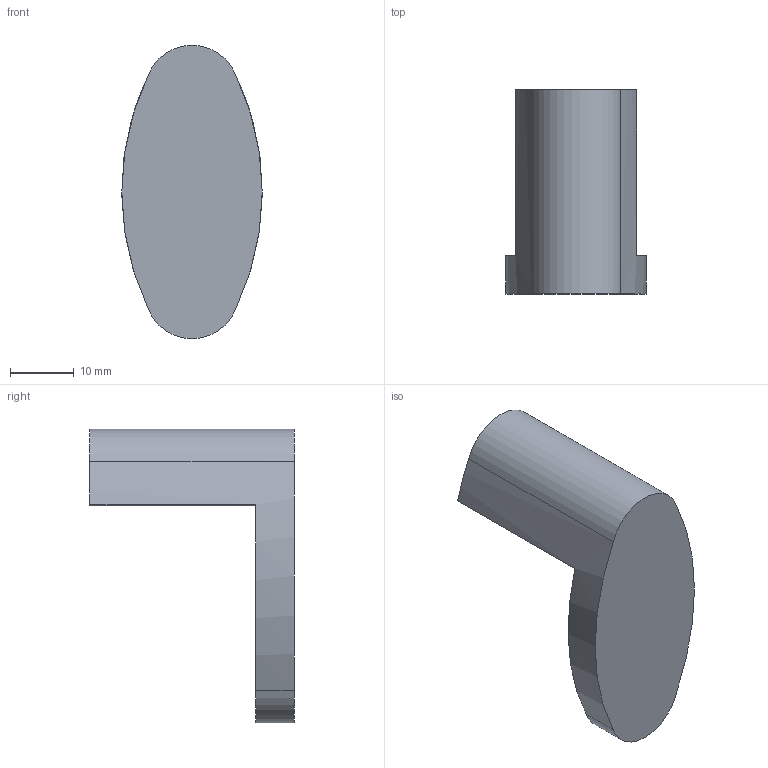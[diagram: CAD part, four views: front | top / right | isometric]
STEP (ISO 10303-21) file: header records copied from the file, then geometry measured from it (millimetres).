
FILE_DESCRIPTION( ( '' ), '1' );
FILE_NAME( 'C:/Documents and Settings/Nikhil/Desktop/Nik/Done/9113460.stp', '2013-10-23T09:08:44', ( '' ), ( '' ), ' ', ' ', ' ' );
FILE_SCHEMA( ( 'automotive_design' ) );
Length unit declared in the file: millimetre
Products named in the file (1): 1
Bounding box: 22 x 32 x 45.95 mm (x, y, z)
Volume: 9082.2 mm3; surface area: 3718.5 mm2
Topology: 1 solids, 1 shells, 13 faces, 30 edges, 20 vertices
Faces by surface type: plane 7, cylinder 6
Entity records: 756 total; most frequent: DIRECTION 72, STYLED_ITEM 64, PRESENTATION_STYLE_ASSIGNMENT 64, CARTESIAN_POINT 64, COLOUR_RGB 64, ORIENTED_EDGE 60, EDGE_CURVE 30, CURVE_STYLE 30
